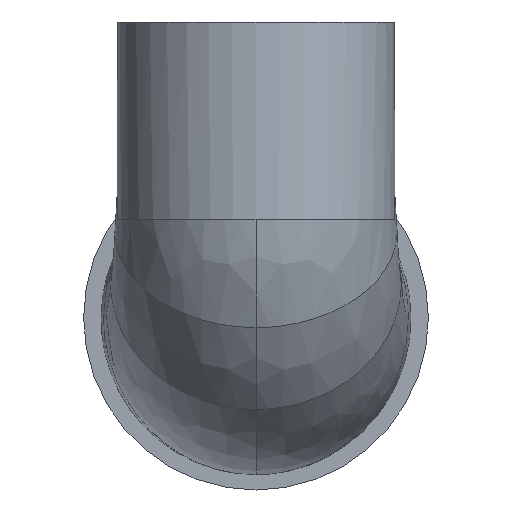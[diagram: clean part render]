
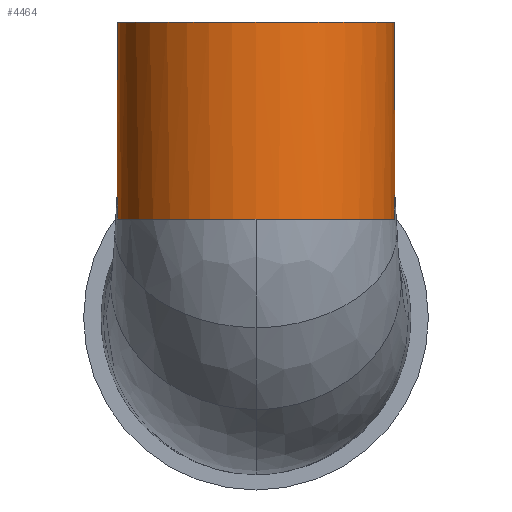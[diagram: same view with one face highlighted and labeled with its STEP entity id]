
A CAD part, left-side view. The second image highlights one B-rep face of the part: STEP entity #4464.
In plain terms, the highlighted cylindrical face has radius 11.25 mm (diameter 22.5 mm), a partial arc.
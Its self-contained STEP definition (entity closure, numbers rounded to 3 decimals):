
#40 = CARTESIAN_POINT ( 'NONE',  ( 0., 0., 24. ) ) ;
#81 = DIRECTION ( 'NONE',  ( 0., 0., 1. ) ) ;
#221 = CARTESIAN_POINT ( 'NONE',  ( -0.188, 11.249, 9.773 ) ) ;
#244 = CARTESIAN_POINT ( 'NONE',  ( 0., 11.25, 24. ) ) ;
#264 = AXIS2_PLACEMENT_3D ( 'NONE', #40, #81, #2134 ) ;
#293 = CARTESIAN_POINT ( 'NONE',  ( 0., -11.25, 10.088 ) ) ;
#521 = ORIENTED_EDGE ( 'NONE', *, *, #4704, .T. ) ;
#569 = CARTESIAN_POINT ( 'NONE',  ( -0.553, 11.236, 8.734 ) ) ;
#594 = CARTESIAN_POINT ( 'NONE',  ( -0.455, 11.241, 9.108 ) ) ;
#673 = ORIENTED_EDGE ( 'NONE', *, *, #1076, .T. ) ;
#699 = CARTESIAN_POINT ( 'NONE',  ( -0.544, -11.237, 8.781 ) ) ;
#726 = CIRCLE ( 'NONE', #264, 11.25 ) ;
#910 = CARTESIAN_POINT ( 'NONE',  ( 0., -11.25, 24. ) ) ;
#992 = VERTEX_POINT ( 'NONE', #293 ) ;
#1003 = EDGE_CURVE ( 'NONE', #3638, #4309, #1566, .T. ) ;
#1076 = EDGE_CURVE ( 'NONE', #1739, #3638, #3700, .T. ) ;
#1107 = EDGE_CURVE ( 'NONE', #6553, #992, #3032, .T. ) ;
#1131 = CARTESIAN_POINT ( 'NONE',  ( -0.582, 11.235, 8.595 ) ) ;
#1210 = CARTESIAN_POINT ( 'NONE',  ( 0., -11.25, 24. ) ) ;
#1296 = B_SPLINE_CURVE_WITH_KNOTS ( 'NONE', 3,
 ( #2286, #2784, #1775, #1797, #2802, #3317, #5992, #699, #2243, #5970, #5459, #2761, #2850, #6479, #5905 ),
 .UNSPECIFIED., .F., .F.,
 ( 4, 1, 2, 2, 1, 1, 2, 2, 4 ),
 ( 0., 0.125, 0.187, 0.25, 0.375, 0.437, 0.469, 0.5, 1. ),
 .UNSPECIFIED. ) ;
#1392 = CARTESIAN_POINT ( 'NONE',  ( -0.411, 11.242, 9.242 ) ) ;
#1479 = VECTOR ( 'NONE', #1726, 1000. ) ;
#1566 = CIRCLE ( 'NONE', #4426, 11.25 ) ;
#1726 = DIRECTION ( 'NONE',  ( 0., 0., -1. ) ) ;
#1739 = VERTEX_POINT ( 'NONE', #2172 ) ;
#1775 = CARTESIAN_POINT ( 'NONE',  ( -0.638, -11.232, 8.229 ) ) ;
#1797 = CARTESIAN_POINT ( 'NONE',  ( -0.619, -11.233, 8.366 ) ) ;
#2119 = EDGE_CURVE ( 'NONE', #4309, #992, #1296, .T. ) ;
#2134 = DIRECTION ( 'NONE',  ( 0., 1., 0. ) ) ;
#2170 = CARTESIAN_POINT ( 'NONE',  ( -0.523, 11.238, 8.87 ) ) ;
#2171 = DIRECTION ( 'NONE',  ( 0., -1., 0. ) ) ;
#2172 = CARTESIAN_POINT ( 'NONE',  ( 0., 11.25, 10.088 ) ) ;
#2243 = CARTESIAN_POINT ( 'NONE',  ( -0.505, -11.239, 8.935 ) ) ;
#2286 = CARTESIAN_POINT ( 'NONE',  ( -0.658, -11.231, 8. ) ) ;
#2373 = CARTESIAN_POINT ( 'NONE',  ( 0., 0., 8. ) ) ;
#2423 = CARTESIAN_POINT ( 'NONE',  ( -0.658, 11.231, 8. ) ) ;
#2691 = DIRECTION ( 'NONE',  ( 0., 0., -1. ) ) ;
#2761 = CARTESIAN_POINT ( 'NONE',  ( -0.468, -11.24, 9.064 ) ) ;
#2784 = CARTESIAN_POINT ( 'NONE',  ( -0.652, -11.231, 8.091 ) ) ;
#2802 = CARTESIAN_POINT ( 'NONE',  ( -0.606, -11.234, 8.457 ) ) ;
#2820 = CARTESIAN_POINT ( 'NONE',  ( -0.623, 11.233, 8.366 ) ) ;
#2850 = CARTESIAN_POINT ( 'NONE',  ( -0.353, -11.245, 9.446 ) ) ;
#2869 = CARTESIAN_POINT ( 'NONE',  ( -0.099, 11.25, 9.934 ) ) ;
#2894 = CARTESIAN_POINT ( 'NONE',  ( -0.303, 11.246, 9.523 ) ) ;
#2948 = CYLINDRICAL_SURFACE ( 'NONE', #3688, 11.25 ) ;
#3032 = LINE ( 'NONE', #1210, #1479 ) ;
#3260 = ORIENTED_EDGE ( 'NONE', *, *, #3370, .F. ) ;
#3268 = ORIENTED_EDGE ( 'NONE', *, *, #1107, .F. ) ;
#3316 = ORIENTED_EDGE ( 'NONE', *, *, #1003, .T. ) ;
#3317 = CARTESIAN_POINT ( 'NONE',  ( -0.598, -11.234, 8.502 ) ) ;
#3359 = DIRECTION ( 'NONE',  ( -0.058, 0.998, 0. ) ) ;
#3370 = EDGE_CURVE ( 'NONE', #4465, #6553, #726, .T. ) ;
#3421 = DIRECTION ( 'NONE',  ( 0., 0., 1. ) ) ;
#3444 = CARTESIAN_POINT ( 'NONE',  ( -0.356, 11.244, 9.395 ) ) ;
#3638 = VERTEX_POINT ( 'NONE', #2423 ) ;
#3643 = LINE ( 'NONE', #244, #5584 ) ;
#3688 = AXIS2_PLACEMENT_3D ( 'NONE', #5295, #2691, #2171 ) ;
#3700 = B_SPLINE_CURVE_WITH_KNOTS ( 'NONE', 3,
 ( #4437, #2869, #221, #2894, #3444, #1392, #5056, #5317, #594, #3707, #2170, #569, #4261, #1131, #2820, #5361, #5920 ),
 .UNSPECIFIED., .F., .F.,
 ( 4, 2, 1, 1, 2, 2, 1, 2, 2, 4 ),
 ( 0., 0.25, 0.375, 0.438, 0.469, 0.5, 0.625, 0.688, 0.75, 1. ),
 .UNSPECIFIED. ) ;
#3707 = CARTESIAN_POINT ( 'NONE',  ( -0.487, 11.239, 9.001 ) ) ;
#3861 = EDGE_LOOP ( 'NONE', ( #6729, #3268, #3260, #521, #673, #3316 ) ) ;
#3907 = DIRECTION ( 'NONE',  ( 0., 0., -1. ) ) ;
#4261 = CARTESIAN_POINT ( 'NONE',  ( -0.572, 11.235, 8.642 ) ) ;
#4309 = VERTEX_POINT ( 'NONE', #6737 ) ;
#4426 = AXIS2_PLACEMENT_3D ( 'NONE', #2373, #3421, #3359 ) ;
#4437 = CARTESIAN_POINT ( 'NONE',  ( 0., 11.25, 10.088 ) ) ;
#4464 = ADVANCED_FACE ( 'NONE', ( #5753 ), #2948, .T. ) ;
#4465 = VERTEX_POINT ( 'NONE', #6365 ) ;
#4704 = EDGE_CURVE ( 'NONE', #4465, #1739, #3643, .T. ) ;
#5056 = CARTESIAN_POINT ( 'NONE',  ( -0.433, 11.242, 9.176 ) ) ;
#5295 = CARTESIAN_POINT ( 'NONE',  ( 0., 0., 24. ) ) ;
#5317 = CARTESIAN_POINT ( 'NONE',  ( -0.448, 11.241, 9.131 ) ) ;
#5361 = CARTESIAN_POINT ( 'NONE',  ( -0.645, 11.231, 8.183 ) ) ;
#5459 = CARTESIAN_POINT ( 'NONE',  ( -0.474, -11.24, 9.044 ) ) ;
#5584 = VECTOR ( 'NONE', #3907, 1000. ) ;
#5753 = FACE_OUTER_BOUND ( 'NONE', #3861, .T. ) ;
#5905 = CARTESIAN_POINT ( 'NONE',  ( 0., -11.25, 10.088 ) ) ;
#5920 = CARTESIAN_POINT ( 'NONE',  ( -0.658, 11.231, 8. ) ) ;
#5970 = CARTESIAN_POINT ( 'NONE',  ( -0.487, -11.239, 9.001 ) ) ;
#5992 = CARTESIAN_POINT ( 'NONE',  ( -0.573, -11.235, 8.643 ) ) ;
#6365 = CARTESIAN_POINT ( 'NONE',  ( 0., 11.25, 24. ) ) ;
#6479 = CARTESIAN_POINT ( 'NONE',  ( -0.199, -11.25, 9.78 ) ) ;
#6553 = VERTEX_POINT ( 'NONE', #910 ) ;
#6729 = ORIENTED_EDGE ( 'NONE', *, *, #2119, .T. ) ;
#6737 = CARTESIAN_POINT ( 'NONE',  ( -0.658, -11.231, 8. ) ) ;
